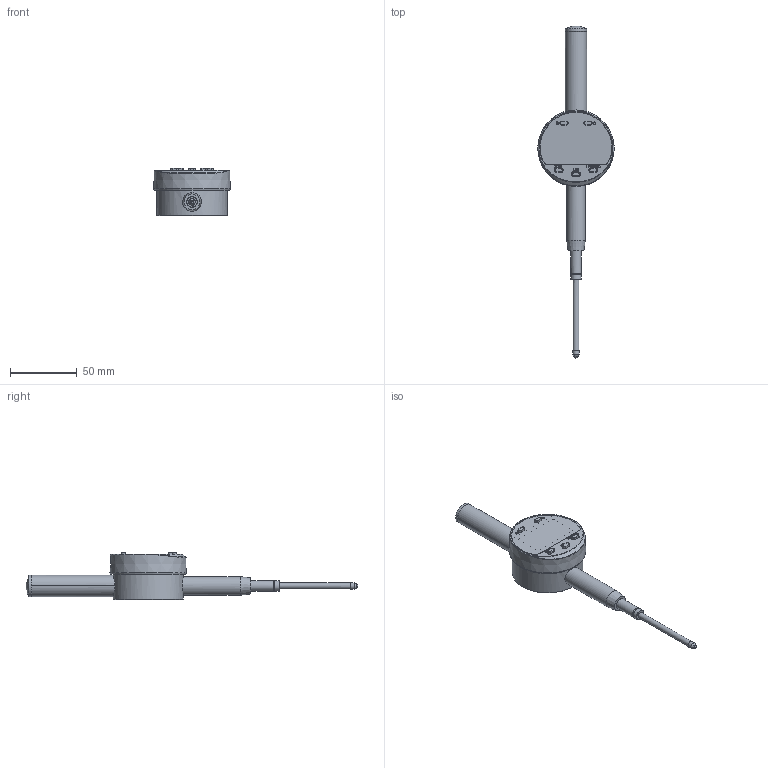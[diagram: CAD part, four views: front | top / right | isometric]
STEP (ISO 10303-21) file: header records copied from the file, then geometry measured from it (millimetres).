
FILE_DESCRIPTION(/* description */ (''),/* implementation_level */ '2;1');
FILE_NAME(/* name */ '量准二寸量表示意图.stp',/* time_stamp */ '2024-05-27T14:17:04+08:00',/* author */ (''),/* organization */ (''),/* preprocessor_version */ 'ST-DEVELOPER v16.7',/* originating_system */ 'SIEMENS PLM Software NX 1919',/* authorisation */ '');
FILE_SCHEMA (('AUTOMOTIVE_DESIGN { 1 0 10303 214 3 1 1 1 }'));
Length unit declared in the file: millimetre
Products named in the file (1): jz65EC77B74fug
Bounding box: 57.45 x 249.43 x 35.95 mm (x, y, z)
Volume: 93428.7 mm3; surface area: 32745.2 mm2
Topology: 3 solids, 49 shells, 394 faces, 1752 edges, 1466 vertices
Faces by surface type: plane 179, cylinder 118, cone 57, torus 22, bspline 11, sphere 5, extrusion 2
Full cylindrical faces by diameter (mm): 4.5 x1, 5 x1, 8 x2, 14 x1, 16 x1, 52.8 x1
Entity records: 21514 total; most frequent: CARTESIAN_POINT 8045, ORIENTED_EDGE 2580, DIRECTION 1834, EDGE_CURVE 1724, VERTEX_POINT 1440, B_SPLINE_CURVE_WITH_KNOTS 946, AXIS2_PLACEMENT_3D 723, EDGE_LOOP 484
